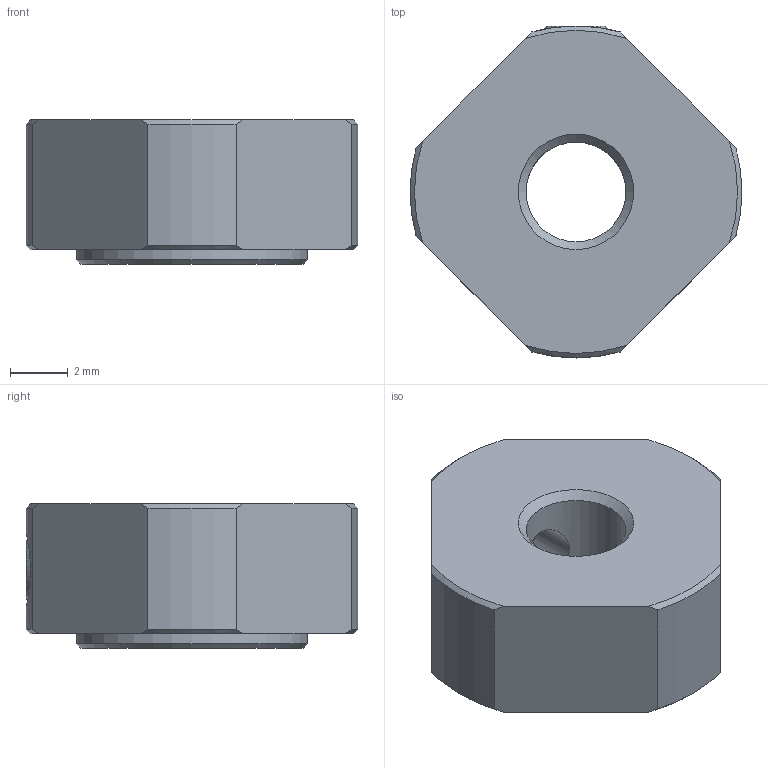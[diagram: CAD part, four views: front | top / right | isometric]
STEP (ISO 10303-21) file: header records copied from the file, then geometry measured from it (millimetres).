
FILE_DESCRIPTION(/* description */ ('STEP AP203'),/* implementation_level */ '2;1');
FILE_NAME(/* name */ 'RN 4',/* time_stamp */ '2025-06-11T07:40:16+02:00',/* author */ ('License CC BY-ND 4.0'),/* organization */ ('CADENAS'),/* preprocessor_version */ 'ST-DEVELOPER v19.3',/* originating_system */ 'PARTsolutions',/* authorisation */ ' ');
FILE_SCHEMA (('CONFIG_CONTROL_DESIGN'));
Length unit declared in the file: millimetre
Products named in the file (1): RN 4
Bounding box: 11.5 x 11.5 x 5 mm (x, y, z)
Volume: 386.2 mm3; surface area: 398.9 mm2
Topology: 1 solids, 1 shells, 36 faces, 87 edges, 57 vertices
Faces by surface type: plane 16, cone 12, cylinder 8
Full cylindrical faces by diameter (mm): 2.113 x1, 2.6 x1, 3.459 x1, 8 x1
Entity records: 1070 total; most frequent: CARTESIAN_POINT 239, DIRECTION 160, ORIENTED_EDGE 156, EDGE_CURVE 78, AXIS2_PLACEMENT_3D 63, VERTEX_POINT 56, EDGE_LOOP 50, FACE_BOUND 50
